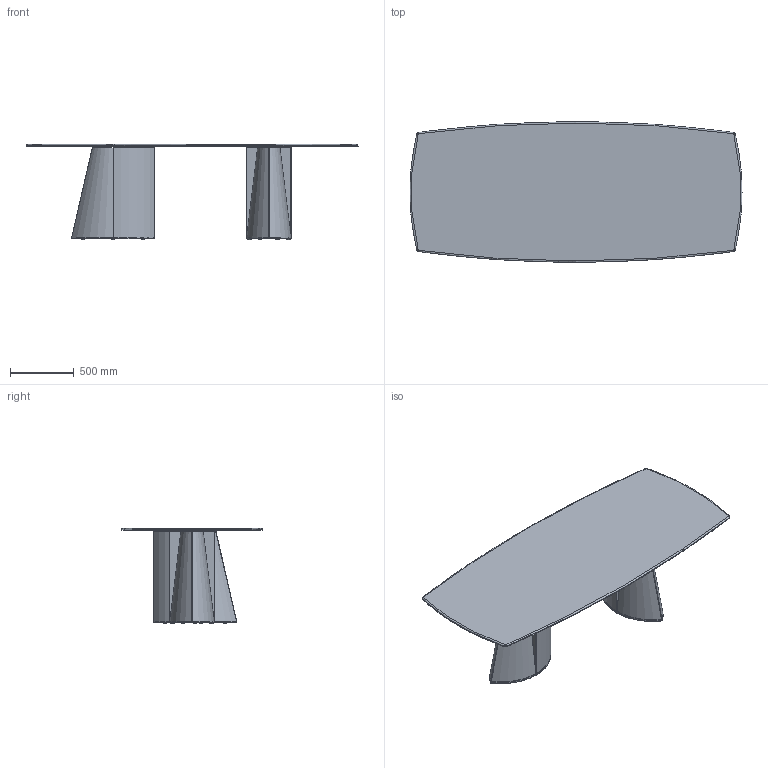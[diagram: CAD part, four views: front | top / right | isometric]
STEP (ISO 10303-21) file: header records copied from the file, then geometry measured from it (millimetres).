
FILE_DESCRIPTION(/* description */ (''),/* implementation_level */ '2;1');
FILE_NAME(/* name */ 'OGIS260_3D',/* time_stamp */ '2026-06-30T09:56:34+02:00',/* author */ (''),/* organization */ (''),/* preprocessor_version */ 'ST-DEVELOPER v16.5',/* originating_system */ '',/* authorisation */ '');
FILE_SCHEMA (('CONFIG_CONTROL_DESIGN'));
Length unit declared in the file: millimetre
Products named in the file (1): Document
Bounding box: 2598.83 x 1099.97 x 745 mm (x, y, z)
Volume: 45349897.9 mm3; surface area: 10781922.6 mm2
Topology: 45 solids, 45 shells, 528 faces, 1090 edges, 652 vertices
Faces by surface type: plane 334, bspline 194
Entity records: 16262 total; most frequent: CARTESIAN_POINT 8704, ORIENTED_EDGE 2180, EDGE_CURVE 1090, B_SPLINE_CURVE_WITH_KNOTS 754, VERTEX_POINT 652, EDGE_LOOP 568, ADVANCED_FACE 528, FACE_OUTER_BOUND 528
